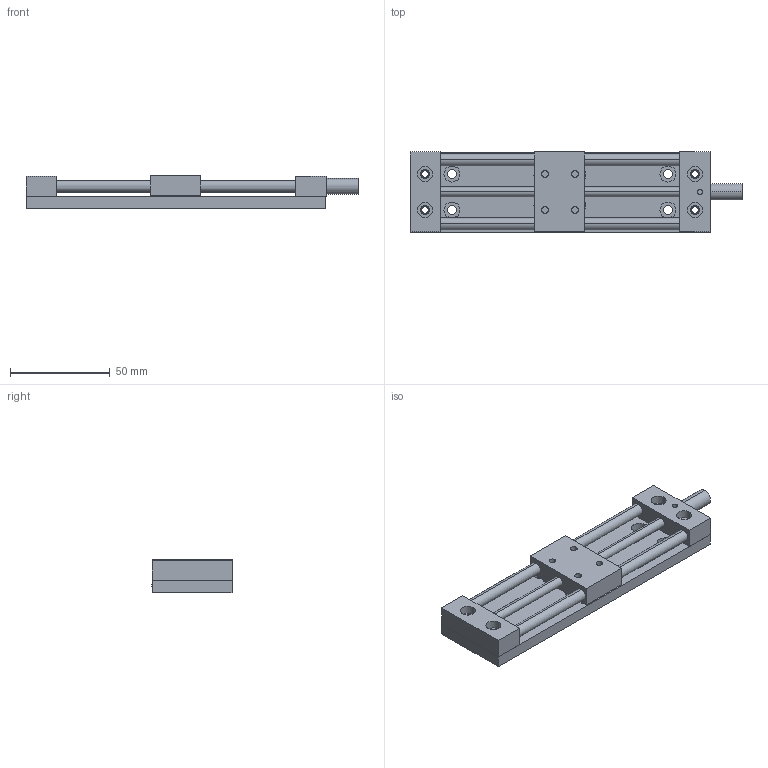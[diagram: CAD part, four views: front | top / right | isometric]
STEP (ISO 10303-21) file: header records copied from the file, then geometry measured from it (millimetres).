
FILE_DESCRIPTION (( 'STEP AP214' ), '1' );
FILE_NAME ('PT-SD95.STEP', '2022-08-21T07:42:05', ( '' ), ( '' ), 'SwSTEP 2.0', 'SolidWorks 2017', '' );
FILE_SCHEMA (( 'AUTOMOTIVE_DESIGN' ));
Length unit declared in the file: millimetre
Products named in the file (1): PT-SD95
Bounding box: 166 x 40 x 16.5 mm (x, y, z)
Surface area: 29646.1 mm2 (no closed solid volume)
Topology: 0 solids, 3 shells, 312 faces, 841 edges, 566 vertices
Faces by surface type: plane 152, cylinder 84, bspline 76
Entity records: 13577 total; most frequent: CARTESIAN_POINT 6004, ORIENTED_EDGE 1642, DIRECTION 1319, EDGE_CURVE 841, VERTEX_POINT 566, LINE 501, VECTOR 501, AXIS2_PLACEMENT_3D 409
